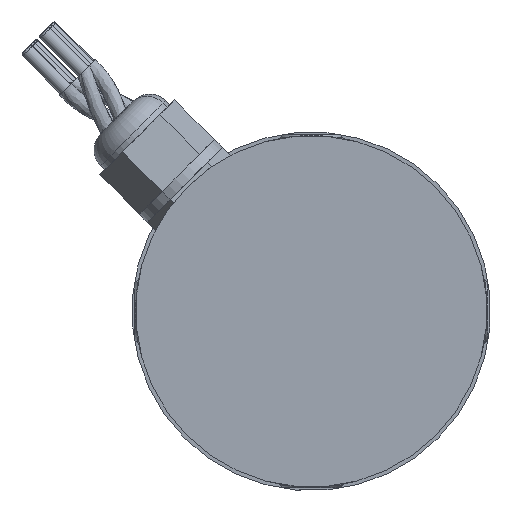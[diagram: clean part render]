
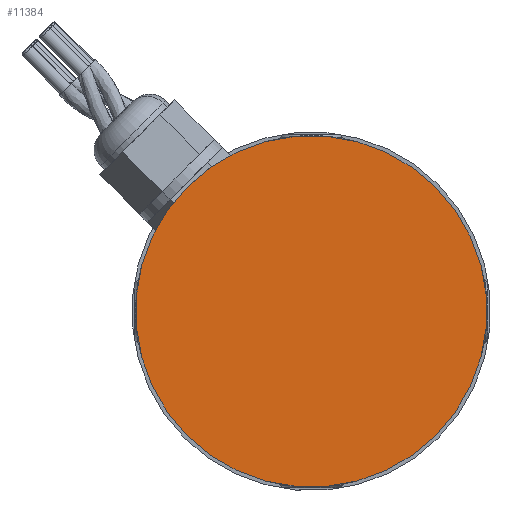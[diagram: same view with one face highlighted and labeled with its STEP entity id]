
A CAD part, left-side view. The second image highlights one B-rep face of the part: STEP entity #11384.
In plain terms, the highlighted planar face has unit normal (-1, 0, 0).
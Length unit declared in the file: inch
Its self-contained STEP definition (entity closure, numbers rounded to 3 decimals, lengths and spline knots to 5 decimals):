
#1284 = CIRCLE ( 'NONE', #5879, 1.5624 ) ;
#1352 = FACE_OUTER_BOUND ( 'NONE', #10138, .T. ) ;
#2060 = VERTEX_POINT ( 'NONE', #8300 ) ;
#2100 = DIRECTION ( 'NONE',  ( 1., 0., 0. ) ) ;
#2602 = EDGE_CURVE ( 'NONE', #9754, #2060, #1284, .T. ) ;
#3305 = DIRECTION ( 'NONE',  ( 0., -0.707, 0.707 ) ) ;
#4431 = CARTESIAN_POINT ( 'NONE',  ( -0.32797, 3.51222, 4.67391 ) ) ;
#4444 = DIRECTION ( 'NONE',  ( 0., -0.707, 0.707 ) ) ;
#5054 = AXIS2_PLACEMENT_3D ( 'NONE', #8881, #2100, #4444 ) ;
#5879 = AXIS2_PLACEMENT_3D ( 'NONE', #7287, #9527, #10494 ) ;
#7092 = CARTESIAN_POINT ( 'NONE',  ( -0.32797, 2.40744, 5.7787 ) ) ;
#7287 = CARTESIAN_POINT ( 'NONE',  ( -0.32797, 3.51222, 4.67391 ) ) ;
#7827 = AXIS2_PLACEMENT_3D ( 'NONE', #4431, #12251, #3305 ) ;
#8058 = ORIENTED_EDGE ( 'NONE', *, *, #8814, .F. ) ;
#8268 = CIRCLE ( 'NONE', #5054, 1.5624 ) ;
#8300 = CARTESIAN_POINT ( 'NONE',  ( -0.32797, 4.61701, 3.56913 ) ) ;
#8814 = EDGE_CURVE ( 'NONE', #2060, #9754, #8268, .T. ) ;
#8881 = CARTESIAN_POINT ( 'NONE',  ( -0.32797, 3.51222, 4.67391 ) ) ;
#9527 = DIRECTION ( 'NONE',  ( 1., 0., 0. ) ) ;
#9754 = VERTEX_POINT ( 'NONE', #7092 ) ;
#10138 = EDGE_LOOP ( 'NONE', ( #8058, #14513 ) ) ;
#10494 = DIRECTION ( 'NONE',  ( 0., -0.707, 0.707 ) ) ;
#11260 = PLANE ( 'NONE',  #7827 ) ;
#11384 = ADVANCED_FACE ( 'NONE', ( #1352 ), #11260, .F. ) ;
#12251 = DIRECTION ( 'NONE',  ( 1., 0., 0. ) ) ;
#14513 = ORIENTED_EDGE ( 'NONE', *, *, #2602, .F. ) ;
